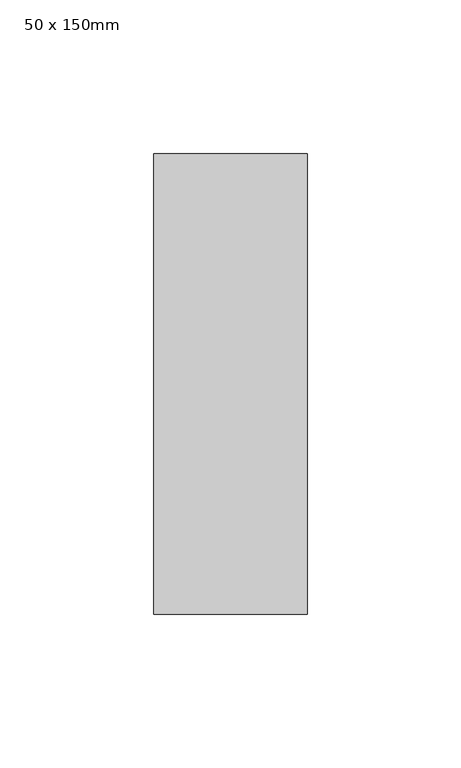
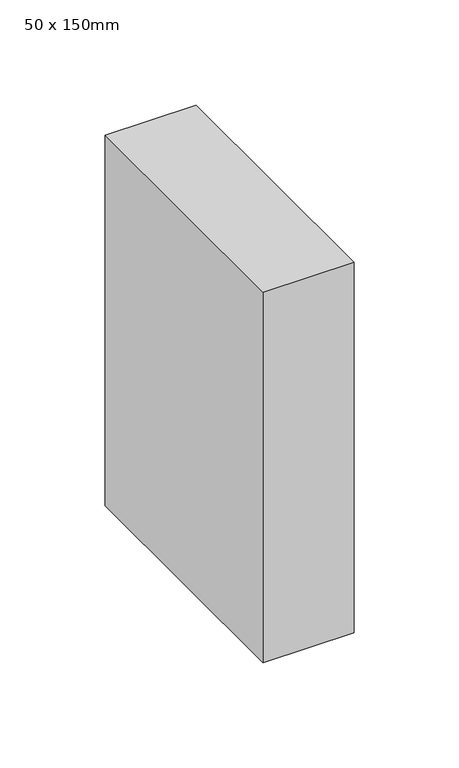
"""IFC4 building model written with IfcOpenShell, lengths in millimetres: member geometry, Прямоугольный импост : 50 x 150mm."""

from ifc_helpers import new_model, si_unit, frame, origin, place, context, project, spatial, polyline, outline, extrude, source, transform, mapped, element, save


def member_50_x_150mm_3cc9e744(model_context):
    return source(origin(), model_context, "Body", "SweptSolid", [
        extrude(outline(polyline([(25.0, 75.0), (25.0, -75.0), (-25.0, -75.0), (-25.0, 75.0), (25.0, 75.0)])), frame((0.0, 0.0, -215.0), z_axis=(0.0, 0.0, 1.0), x_axis=(1.0, 0.0, 0.0)), (0.0, 0.0, 1.0), 215.0),
    ])


if __name__ == "__main__":
    model = new_model("IFC4")
    model_context = context("Model", 3, world=origin())
    ifc_project = project(units=[si_unit("LENGTHUNIT", "METRE", prefix="MILLI")], contexts=[model_context])
    site = spatial("IfcSite", under=ifc_project)
    building = spatial("IfcBuilding", under=site)
    placement = place(None, origin())
    member_50_x_150mm_shape = member_50_x_150mm_3cc9e744(model_context)
    element("IfcMember", 1, ObjectType="Прямоугольный импост : 50 x 150mm", at=placement, inside=building, context=model_context, shape_type="MappedRepresentation", body=[
        mapped(member_50_x_150mm_shape, transform((0.0, 0.0, 0.0), x_axis=(1.0, 0.0, 0.0), y_axis=(0.0, 1.0, 0.0), z_axis=(0.0, 0.0, 1.0))),
    ])
    save(model, "model.ifc")
